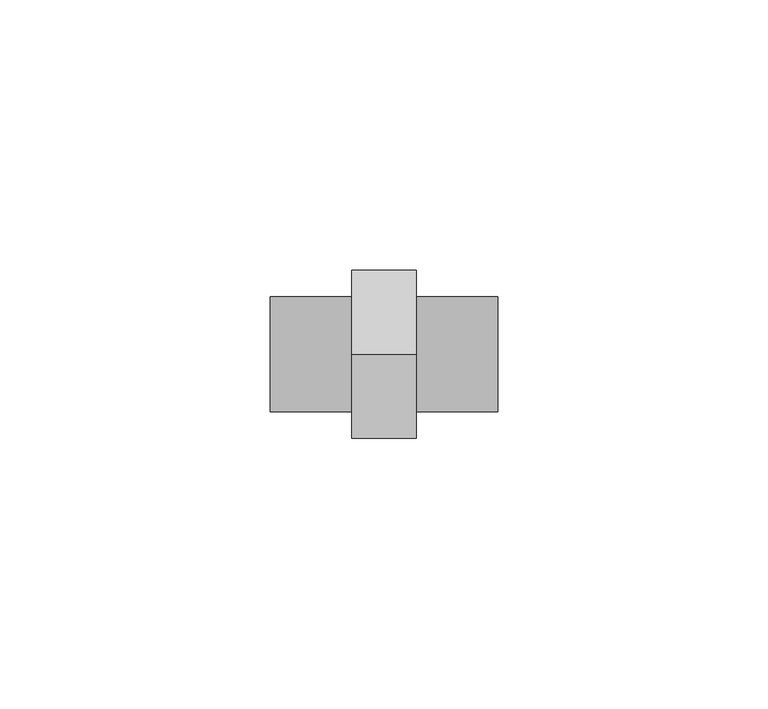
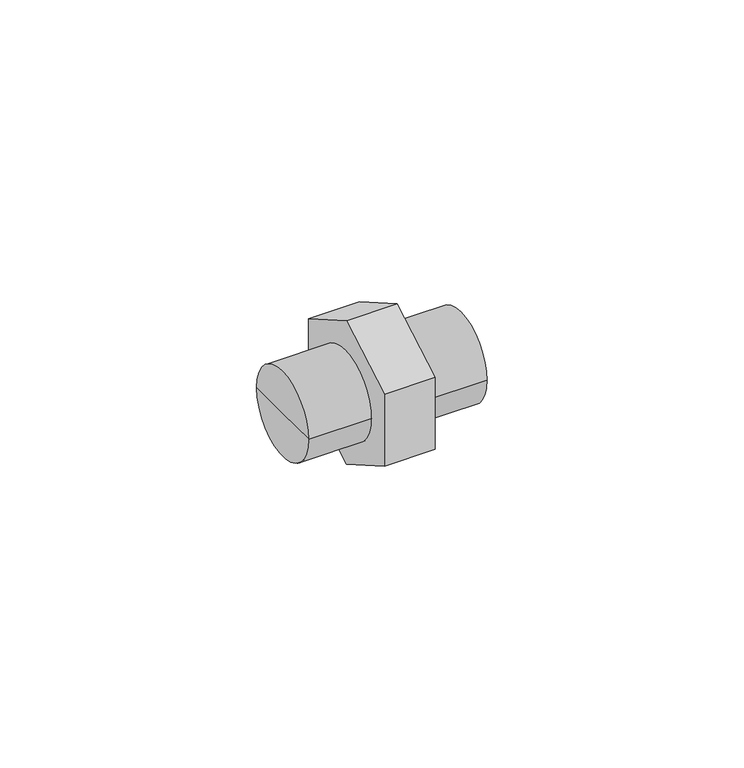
"""IFC4 building model written with IfcOpenShell, lengths in millimetres: pipe fitting geometry."""

from ifc_helpers import new_model, si_unit, point, frame, origin, origin_2d, place, context, project, spatial, polyline, circle_curve, trimmed, segment, composite_curve, outline, extrude, source, transform, mapped, element, save
from ifc_brep_helpers import plane_surface, cylinder_surface, advanced_brep


def pipe_fitting_9c3efd51(model_context):
    return source(origin(), model_context, "Body", "SolidModel", [
        extrude(outline(polyline([(-15.5, -8.9489292), (-15.5, 8.9489292), (0.0, 17.8978583), (15.5, 8.9489292), (15.5, -8.9489292), (0.0, -17.8978583), (-15.5, -8.9489292)]), holes=[composite_curve([segment(trimmed(circle_curve(origin_2d(), 7.5), [point((-7.5, 0.0))], [point((7.5, 0.0))], True, "CARTESIAN"), True, "CONTINUOUS"), segment(trimmed(circle_curve(origin_2d(), 7.5), [point((7.5, 0.0))], [point((-7.5, 0.0))], True, "CARTESIAN"), True, "CONTINUOUS")], self_intersect=False)]), frame((-6.0, 0.0, 0.0), z_axis=(1.0, 0.0, 0.0), x_axis=(0.0, 1.0, 0.0)), (0.0, 0.0, 1.0), 12.0),
        advanced_brep(
        [(6.0, -10.65, 0.0), (6.0, 10.65, 0.0), (21.0, 10.65, 0.0), (21.0, -10.65, 0.0), (6.0, 0.0, 0.0), (21.0, 0.0, 0.0)],
        [
            (0, 1, circle_curve(frame((6.0, 0.0, 0.0), z_axis=(1.0, 0.0, 0.0), x_axis=(0.0, 1.0, 0.0)), 10.65)),
            (1, 2),
            (2, 3, circle_curve(frame((21.0, 0.0, 0.0), z_axis=(-1.0, 0.0, 0.0), x_axis=(0.0, 1.0, 0.0)), 10.65)),
            (3, 0),
            (1, 0, circle_curve(frame((6.0, 0.0, 0.0), z_axis=(1.0, 0.0, 0.0), x_axis=(0.0, 1.0, 0.0)), 10.65)),
            (3, 2, circle_curve(frame((21.0, 0.0, 0.0), z_axis=(-1.0, 0.0, 0.0), x_axis=(0.0, 1.0, 0.0)), 10.65)),
            (4, 1),
            (0, 4),
            (2, 5),
            (5, 3),
        ],
        [
            cylinder_surface(frame((2000.0, 0.0, 0.0), z_axis=(-1.0, 0.0, 0.0), x_axis=(0.0, 1.0, 0.0)), 10.65),
            plane_surface(frame((6.0, 0.0, 0.0), z_axis=(-1.0, 0.0, 0.0), x_axis=(0.0, 1.0, 0.0))),
            plane_surface(frame((21.0, 0.0, 0.0), z_axis=(1.0, 0.0, 0.0), x_axis=(0.0, 1.0, 0.0))),
        ],
        [
            (0, [[1, 2, 3, 4]]),
            (0, [[5, -4, 6, -2]]),
            (1, [[7, -1, 8]]),
            (1, [[-8, -5, -7]]),
            (2, [[-3, 9, 10]]),
            (2, [[-6, -10, -9]]),
        ],
    ),
        advanced_brep(
        [(-21.0, -10.65, 0.0), (-21.0, 10.65, 0.0), (-6.0, 10.65, 0.0), (-6.0, -10.65, 0.0), (-21.0, 0.0, 0.0), (-6.0, 0.0, 0.0)],
        [
            (0, 1, circle_curve(frame((-21.0, 0.0, 0.0), z_axis=(1.0, 0.0, 0.0), x_axis=(0.0, 1.0, 0.0)), 10.65)),
            (1, 2),
            (2, 3, circle_curve(frame((-6.0, 0.0, 0.0), z_axis=(-1.0, 0.0, 0.0), x_axis=(0.0, 1.0, 0.0)), 10.65)),
            (3, 0),
            (1, 0, circle_curve(frame((-21.0, 0.0, 0.0), z_axis=(1.0, 0.0, 0.0), x_axis=(0.0, 1.0, 0.0)), 10.65)),
            (3, 2, circle_curve(frame((-6.0, 0.0, 0.0), z_axis=(-1.0, 0.0, 0.0), x_axis=(0.0, 1.0, 0.0)), 10.65)),
            (4, 1),
            (0, 4),
            (2, 5),
            (5, 3),
        ],
        [
            cylinder_surface(frame((1990.5, 0.0, 0.0), z_axis=(-1.0, 0.0, 0.0), x_axis=(0.0, 1.0, 0.0)), 10.65),
            plane_surface(frame((-21.0, 0.0, 0.0), z_axis=(-1.0, 0.0, 0.0), x_axis=(0.0, 1.0, 0.0))),
            plane_surface(frame((-6.0, 0.0, 0.0), z_axis=(1.0, 0.0, 0.0), x_axis=(0.0, 1.0, 0.0))),
        ],
        [
            (0, [[1, 2, 3, 4]]),
            (0, [[5, -4, 6, -2]]),
            (1, [[7, -1, 8]]),
            (1, [[-8, -5, -7]]),
            (2, [[-3, 9, 10]]),
            (2, [[-6, -10, -9]]),
        ],
    ),
    ])


if __name__ == "__main__":
    model = new_model("IFC4")
    model_context = context("Model", 3, world=origin())
    ifc_project = project(units=[si_unit("LENGTHUNIT", "METRE", prefix="MILLI")], contexts=[model_context])
    site = spatial("IfcSite", under=ifc_project)
    building = spatial("IfcBuilding", under=site)
    placement = place(None, origin())
    pipe_fitting_shape = pipe_fitting_9c3efd51(model_context)
    element("IfcPipeFitting", 1, ObjectType="NLRS_50_PIF_UN_adapter met buitendraad MF 1_2_ en buitendraad_geb : DN15-15 / R1/2\"-R1/2\"", at=placement, inside=building, context=model_context, shape_type="MappedRepresentation", body=[
        mapped(pipe_fitting_shape, transform((0.0, 0.0, 0.0), x_axis=(1.0, 0.0, 0.0), y_axis=(0.0, 1.0, 0.0), z_axis=(0.0, 0.0, 1.0))),
    ])
    save(model, "model.ifc")
